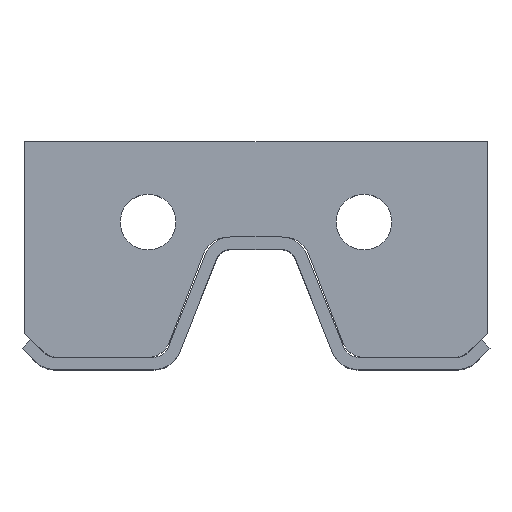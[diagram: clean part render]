
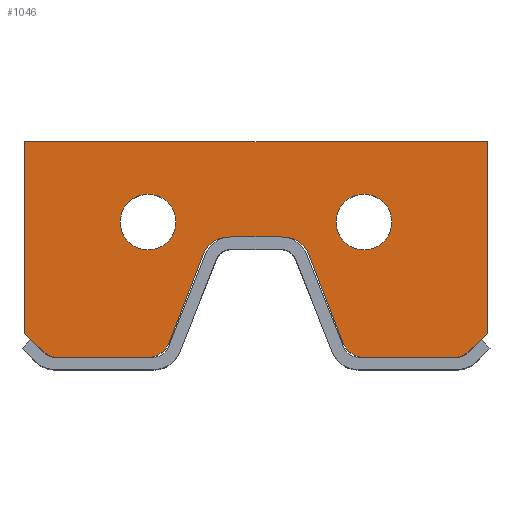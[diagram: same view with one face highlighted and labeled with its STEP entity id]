
A CAD part, top view. The second image highlights one B-rep face of the part: STEP entity #1046.
In plain terms, the highlighted planar face has unit normal (0, 0, 1).
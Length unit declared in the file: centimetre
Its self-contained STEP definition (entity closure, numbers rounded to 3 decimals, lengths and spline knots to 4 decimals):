
#32=FACE_BOUND('',#163,.T.);
#33=FACE_BOUND('',#164,.T.);
#54=PLANE('',#1136);
#100=FACE_OUTER_BOUND('',#162,.T.);
#162=EDGE_LOOP('',(#880,#881,#882,#883,#884,#885,#886,#887,#888,#889,#890,
#891,#892,#893,#894,#895));
#163=EDGE_LOOP('',(#896));
#164=EDGE_LOOP('',(#897));
#250=LINE('',#1684,#352);
#251=LINE('',#1686,#353);
#252=LINE('',#1688,#354);
#253=LINE('',#1692,#355);
#254=LINE('',#1696,#356);
#255=LINE('',#1700,#357);
#256=LINE('',#1704,#358);
#257=LINE('',#1708,#359);
#258=LINE('',#1712,#360);
#259=LINE('',#1713,#361);
#352=VECTOR('',#1375,1.);
#353=VECTOR('',#1376,1.);
#354=VECTOR('',#1377,1.);
#355=VECTOR('',#1380,1.);
#356=VECTOR('',#1383,1.);
#357=VECTOR('',#1386,1.);
#358=VECTOR('',#1389,1.);
#359=VECTOR('',#1392,1.);
#360=VECTOR('',#1395,1.);
#361=VECTOR('',#1396,1.);
#422=CIRCLE('',#1137,8.);
#423=CIRCLE('',#1138,8.);
#424=CIRCLE('',#1139,8.);
#425=CIRCLE('',#1140,8.);
#426=CIRCLE('',#1141,8.);
#427=CIRCLE('',#1142,8.);
#428=CIRCLE('',#1143,9.);
#429=CIRCLE('',#1144,9.);
#502=VERTEX_POINT('',#1682);
#503=VERTEX_POINT('',#1683);
#504=VERTEX_POINT('',#1685);
#505=VERTEX_POINT('',#1687);
#506=VERTEX_POINT('',#1689);
#507=VERTEX_POINT('',#1691);
#508=VERTEX_POINT('',#1693);
#509=VERTEX_POINT('',#1695);
#510=VERTEX_POINT('',#1697);
#511=VERTEX_POINT('',#1699);
#512=VERTEX_POINT('',#1701);
#513=VERTEX_POINT('',#1703);
#514=VERTEX_POINT('',#1705);
#515=VERTEX_POINT('',#1707);
#516=VERTEX_POINT('',#1709);
#517=VERTEX_POINT('',#1711);
#518=VERTEX_POINT('',#1714);
#519=VERTEX_POINT('',#1716);
#634=EDGE_CURVE('',#502,#503,#250,.T.);
#635=EDGE_CURVE('',#503,#504,#251,.T.);
#636=EDGE_CURVE('',#504,#505,#252,.T.);
#637=EDGE_CURVE('',#505,#506,#422,.T.);
#638=EDGE_CURVE('',#506,#507,#253,.T.);
#639=EDGE_CURVE('',#507,#508,#423,.T.);
#640=EDGE_CURVE('',#508,#509,#254,.T.);
#641=EDGE_CURVE('',#509,#510,#424,.T.);
#642=EDGE_CURVE('',#510,#511,#255,.T.);
#643=EDGE_CURVE('',#511,#512,#425,.T.);
#644=EDGE_CURVE('',#512,#513,#256,.T.);
#645=EDGE_CURVE('',#513,#514,#426,.T.);
#646=EDGE_CURVE('',#514,#515,#257,.T.);
#647=EDGE_CURVE('',#515,#516,#427,.T.);
#648=EDGE_CURVE('',#516,#517,#258,.T.);
#649=EDGE_CURVE('',#517,#502,#259,.T.);
#650=EDGE_CURVE('',#518,#518,#428,.T.);
#651=EDGE_CURVE('',#519,#519,#429,.T.);
#880=ORIENTED_EDGE('',*,*,#634,.T.);
#881=ORIENTED_EDGE('',*,*,#635,.T.);
#882=ORIENTED_EDGE('',*,*,#636,.T.);
#883=ORIENTED_EDGE('',*,*,#637,.T.);
#884=ORIENTED_EDGE('',*,*,#638,.T.);
#885=ORIENTED_EDGE('',*,*,#639,.T.);
#886=ORIENTED_EDGE('',*,*,#640,.T.);
#887=ORIENTED_EDGE('',*,*,#641,.T.);
#888=ORIENTED_EDGE('',*,*,#642,.T.);
#889=ORIENTED_EDGE('',*,*,#643,.T.);
#890=ORIENTED_EDGE('',*,*,#644,.T.);
#891=ORIENTED_EDGE('',*,*,#645,.T.);
#892=ORIENTED_EDGE('',*,*,#646,.T.);
#893=ORIENTED_EDGE('',*,*,#647,.T.);
#894=ORIENTED_EDGE('',*,*,#648,.T.);
#895=ORIENTED_EDGE('',*,*,#649,.T.);
#896=ORIENTED_EDGE('',*,*,#650,.T.);
#897=ORIENTED_EDGE('',*,*,#651,.T.);
#1046=ADVANCED_FACE('',(#100,#32,#33),#54,.T.);
#1136=AXIS2_PLACEMENT_3D('',#1681,#1373,#1374);
#1137=AXIS2_PLACEMENT_3D('',#1690,#1378,#1379);
#1138=AXIS2_PLACEMENT_3D('',#1694,#1381,#1382);
#1139=AXIS2_PLACEMENT_3D('',#1698,#1384,#1385);
#1140=AXIS2_PLACEMENT_3D('',#1702,#1387,#1388);
#1141=AXIS2_PLACEMENT_3D('',#1706,#1390,#1391);
#1142=AXIS2_PLACEMENT_3D('',#1710,#1393,#1394);
#1143=AXIS2_PLACEMENT_3D('',#1715,#1397,#1398);
#1144=AXIS2_PLACEMENT_3D('',#1717,#1399,#1400);
#1373=DIRECTION('center_axis',(0.,0.,1.));
#1374=DIRECTION('ref_axis',(1.,0.,0.));
#1375=DIRECTION('',(-1.,0.,0.));
#1376=DIRECTION('',(0.,-1.,0.));
#1377=DIRECTION('',(0.707,-0.707,0.));
#1378=DIRECTION('center_axis',(0.,0.,1.));
#1379=DIRECTION('ref_axis',(-0.707,-0.707,0.));
#1380=DIRECTION('',(1.,0.,0.));
#1381=DIRECTION('center_axis',(0.,0.,1.));
#1382=DIRECTION('ref_axis',(0.,-1.,0.));
#1383=DIRECTION('',(0.359,0.933,0.));
#1384=DIRECTION('center_axis',(0.,0.,-1.));
#1385=DIRECTION('ref_axis',(-0.933,0.359,0.));
#1386=DIRECTION('',(1.,0.,0.));
#1387=DIRECTION('center_axis',(0.,0.,-1.));
#1388=DIRECTION('ref_axis',(0.,1.,0.));
#1389=DIRECTION('',(0.359,-0.933,0.));
#1390=DIRECTION('center_axis',(0.,0.,1.));
#1391=DIRECTION('ref_axis',(-0.933,-0.359,0.));
#1392=DIRECTION('',(1.,0.,0.));
#1393=DIRECTION('center_axis',(0.,0.,1.));
#1394=DIRECTION('ref_axis',(0.,-1.,0.));
#1395=DIRECTION('',(0.707,0.707,0.));
#1396=DIRECTION('',(0.,1.,0.));
#1397=DIRECTION('center_axis',(0.,0.,-1.));
#1398=DIRECTION('ref_axis',(1.,0.,0.));
#1399=DIRECTION('center_axis',(0.,0.,-1.));
#1400=DIRECTION('ref_axis',(1.,0.,0.));
#1681=CARTESIAN_POINT('Origin',(640.0424,1598.304,2.));
#1682=CARTESIAN_POINT('',(715.0424,1630.3958,2.));
#1683=CARTESIAN_POINT('',(565.0424,1630.3958,2.));
#1684=CARTESIAN_POINT('',(715.0424,1630.3958,2.));
#1685=CARTESIAN_POINT('',(565.0424,1568.3958,2.));
#1686=CARTESIAN_POINT('',(565.0424,1630.3958,2.));
#1687=CARTESIAN_POINT('',(570.6993,1562.7389,2.));
#1688=CARTESIAN_POINT('',(565.0424,1568.3958,2.));
#1689=CARTESIAN_POINT('',(576.3561,1560.3958,2.));
#1690=CARTESIAN_POINT('Origin',(576.3561,1568.3958,2.));
#1691=CARTESIAN_POINT('',(604.548,1560.3958,2.));
#1692=CARTESIAN_POINT('',(576.3561,1560.3958,2.));
#1693=CARTESIAN_POINT('',(612.0148,1565.524,2.));
#1694=CARTESIAN_POINT('Origin',(604.548,1568.3958,2.));
#1695=CARTESIAN_POINT('',(623.07,1594.2676,2.));
#1696=CARTESIAN_POINT('',(612.0148,1565.524,2.));
#1697=CARTESIAN_POINT('',(630.5368,1599.3958,2.));
#1698=CARTESIAN_POINT('Origin',(630.5368,1591.3958,2.));
#1699=CARTESIAN_POINT('',(649.548,1599.3958,2.));
#1700=CARTESIAN_POINT('',(630.5368,1599.3958,2.));
#1701=CARTESIAN_POINT('',(657.0148,1594.2676,2.));
#1702=CARTESIAN_POINT('Origin',(649.548,1591.3958,2.));
#1703=CARTESIAN_POINT('',(668.07,1565.524,2.));
#1704=CARTESIAN_POINT('',(657.0148,1594.2676,2.));
#1705=CARTESIAN_POINT('',(675.5368,1560.3958,2.));
#1706=CARTESIAN_POINT('Origin',(675.5368,1568.3958,2.));
#1707=CARTESIAN_POINT('',(703.7287,1560.3958,2.));
#1708=CARTESIAN_POINT('',(675.5368,1560.3958,2.));
#1709=CARTESIAN_POINT('',(709.3855,1562.7389,2.));
#1710=CARTESIAN_POINT('Origin',(703.7287,1568.3958,2.));
#1711=CARTESIAN_POINT('',(715.0424,1568.3958,2.));
#1712=CARTESIAN_POINT('',(709.3855,1562.7389,2.));
#1713=CARTESIAN_POINT('',(715.0424,1568.3958,2.));
#1714=CARTESIAN_POINT('',(596.0424,1604.3958,2.));
#1715=CARTESIAN_POINT('Origin',(605.0424,1604.3958,2.));
#1716=CARTESIAN_POINT('',(666.0424,1604.3958,2.));
#1717=CARTESIAN_POINT('Origin',(675.0424,1604.3958,2.));
